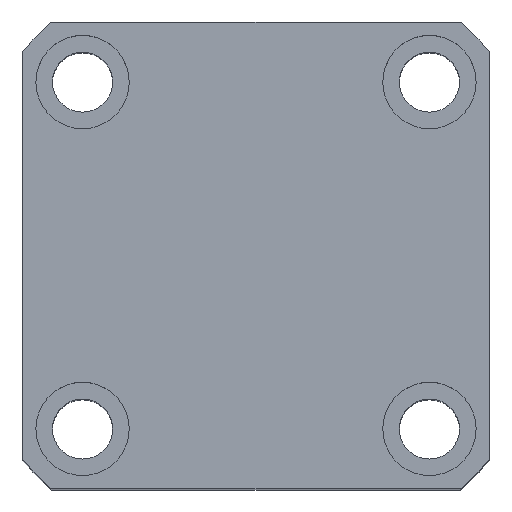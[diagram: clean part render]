
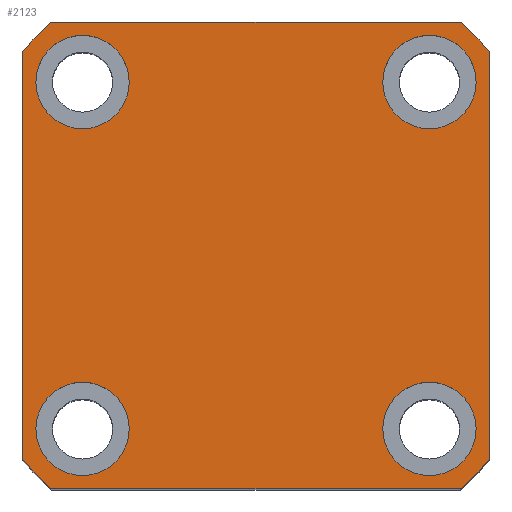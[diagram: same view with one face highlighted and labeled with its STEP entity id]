
A CAD part, top view. The second image highlights one B-rep face of the part: STEP entity #2123.
In plain terms, the highlighted planar face has unit normal (0, 0, 1).
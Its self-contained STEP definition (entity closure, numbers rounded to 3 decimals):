
#29 = ORIENTED_EDGE ( 'NONE', *, *, #9833, .T. ) ;
#46 = CARTESIAN_POINT ( 'NONE',  ( 35., 30.615, 90. ) ) ;
#142 = CARTESIAN_POINT ( 'NONE',  ( -33., 26., 90. ) ) ;
#172 = EDGE_CURVE ( 'NONE', #5427, #9841, #10039, .T. ) ;
#218 = FACE_BOUND ( 'NONE', #6720, .T. ) ;
#255 = VECTOR ( 'NONE', #5085, 1000. ) ;
#265 = CARTESIAN_POINT ( 'NONE',  ( 26., 26., 90. ) ) ;
#315 = CARTESIAN_POINT ( 'NONE',  ( 33., 26., 90. ) ) ;
#328 = AXIS2_PLACEMENT_3D ( 'NONE', #7920, #8391, #7955 ) ;
#436 = AXIS2_PLACEMENT_3D ( 'NONE', #1637, #7015, #2417 ) ;
#534 = EDGE_CURVE ( 'NONE', #9280, #8065, #6297, .T. ) ;
#685 = ORIENTED_EDGE ( 'NONE', *, *, #9141, .F. ) ;
#711 = VECTOR ( 'NONE', #2616, 1000. ) ;
#730 = VERTEX_POINT ( 'NONE', #9294 ) ;
#951 = DIRECTION ( 'NONE',  ( 0., 1., 0. ) ) ;
#1068 = DIRECTION ( 'NONE',  ( 1., 0., 0. ) ) ;
#1344 = CIRCLE ( 'NONE', #9437, 7. ) ;
#1515 = EDGE_CURVE ( 'NONE', #3730, #6779, #9062, .T. ) ;
#1564 = CARTESIAN_POINT ( 'NONE',  ( 26., 26., 90. ) ) ;
#1611 = DIRECTION ( 'NONE',  ( 0., 0., 1. ) ) ;
#1612 = CARTESIAN_POINT ( 'NONE',  ( -26., -26., 90. ) ) ;
#1637 = CARTESIAN_POINT ( 'NONE',  ( -26., 26., 90. ) ) ;
#1757 = CARTESIAN_POINT ( 'NONE',  ( 35., -30.615, 90. ) ) ;
#2051 = CARTESIAN_POINT ( 'NONE',  ( 0., 0., 90. ) ) ;
#2052 = CIRCLE ( 'NONE', #6829, 7. ) ;
#2115 = DIRECTION ( 'NONE',  ( 1., 0., 0. ) ) ;
#2123 = ADVANCED_FACE ( 'NONE', ( #7966, #218, #4124, #10015, #5931 ), #4612, .T. ) ;
#2153 = CARTESIAN_POINT ( 'NONE',  ( -19., -26., 90. ) ) ;
#2310 = EDGE_CURVE ( 'NONE', #8937, #7603, #1344, .T. ) ;
#2321 = CARTESIAN_POINT ( 'NONE',  ( -26., -26., 90. ) ) ;
#2349 = DIRECTION ( 'NONE',  ( 1., 0., 0. ) ) ;
#2384 = DIRECTION ( 'NONE',  ( 1., 0., 0. ) ) ;
#2386 = EDGE_CURVE ( 'NONE', #8065, #9280, #5447, .T. ) ;
#2399 = ORIENTED_EDGE ( 'NONE', *, *, #7253, .F. ) ;
#2410 = ORIENTED_EDGE ( 'NONE', *, *, #534, .F. ) ;
#2417 = DIRECTION ( 'NONE',  ( 1., 0., 0. ) ) ;
#2582 = CARTESIAN_POINT ( 'NONE',  ( 19., -26., 90. ) ) ;
#2616 = DIRECTION ( 'NONE',  ( -1., 0., 0. ) ) ;
#2651 = ORIENTED_EDGE ( 'NONE', *, *, #9370, .T. ) ;
#2661 = ORIENTED_EDGE ( 'NONE', *, *, #4645, .T. ) ;
#2721 = VERTEX_POINT ( 'NONE', #5487 ) ;
#2755 = DIRECTION ( 'NONE',  ( 0., 0., 1. ) ) ;
#2837 = DIRECTION ( 'NONE',  ( 1., 0., 0. ) ) ;
#2887 = CARTESIAN_POINT ( 'NONE',  ( 0., 0., 90. ) ) ;
#2900 = CARTESIAN_POINT ( 'NONE',  ( -26., 26., 90. ) ) ;
#3099 = DIRECTION ( 'NONE',  ( 1., 0., 0. ) ) ;
#3447 = CARTESIAN_POINT ( 'NONE',  ( 33., -26., 90. ) ) ;
#3567 = AXIS2_PLACEMENT_3D ( 'NONE', #7340, #2755, #8127 ) ;
#3640 = DIRECTION ( 'NONE',  ( 0., 0., 1. ) ) ;
#3662 = DIRECTION ( 'NONE',  ( 1., 0., 0. ) ) ;
#3681 = CIRCLE ( 'NONE', #9143, 7. ) ;
#3730 = VERTEX_POINT ( 'NONE', #2582 ) ;
#3785 = EDGE_CURVE ( 'NONE', #2721, #5427, #8692, .T. ) ;
#3794 = CIRCLE ( 'NONE', #5354, 7. ) ;
#3876 = CARTESIAN_POINT ( 'NONE',  ( 0., 0., 90. ) ) ;
#3883 = AXIS2_PLACEMENT_3D ( 'NONE', #2051, #7423, #2837 ) ;
#3979 = CARTESIAN_POINT ( 'NONE',  ( 26., -26., 90. ) ) ;
#4124 = FACE_BOUND ( 'NONE', #7200, .T. ) ;
#4215 = ORIENTED_EDGE ( 'NONE', *, *, #2386, .F. ) ;
#4348 = CARTESIAN_POINT ( 'NONE',  ( -35., -35., 90. ) ) ;
#4407 = LINE ( 'NONE', #4348, #8487 ) ;
#4563 = CARTESIAN_POINT ( 'NONE',  ( 30.615, -35., 90. ) ) ;
#4612 = PLANE ( 'NONE',  #6848 ) ;
#4645 = EDGE_CURVE ( 'NONE', #9661, #8677, #8744, .T. ) ;
#4648 = DIRECTION ( 'NONE',  ( 1., 0., 0. ) ) ;
#4657 = VECTOR ( 'NONE', #951, 1000. ) ;
#4761 = DIRECTION ( 'NONE',  ( 1., 0., 0. ) ) ;
#4813 = VERTEX_POINT ( 'NONE', #7490 ) ;
#4908 = CARTESIAN_POINT ( 'NONE',  ( -35., 35., 90. ) ) ;
#4996 = AXIS2_PLACEMENT_3D ( 'NONE', #3979, #9353, #4761 ) ;
#5034 = ORIENTED_EDGE ( 'NONE', *, *, #7001, .T. ) ;
#5059 = ORIENTED_EDGE ( 'NONE', *, *, #1515, .F. ) ;
#5085 = DIRECTION ( 'NONE',  ( 0., -1., 0. ) ) ;
#5149 = CARTESIAN_POINT ( 'NONE',  ( -35., 35., 90. ) ) ;
#5175 = VERTEX_POINT ( 'NONE', #9360 ) ;
#5354 = AXIS2_PLACEMENT_3D ( 'NONE', #1612, #6988, #2384 ) ;
#5427 = VERTEX_POINT ( 'NONE', #5709 ) ;
#5447 = CIRCLE ( 'NONE', #436, 7. ) ;
#5487 = CARTESIAN_POINT ( 'NONE',  ( 30.615, 35., 90. ) ) ;
#5593 = CARTESIAN_POINT ( 'NONE',  ( 35., 35., 90. ) ) ;
#5703 = DIRECTION ( 'NONE',  ( 0., 0., 1. ) ) ;
#5709 = CARTESIAN_POINT ( 'NONE',  ( -30.615, 35., 90. ) ) ;
#5916 = EDGE_CURVE ( 'NONE', #5175, #8503, #4407, .T. ) ;
#5931 = FACE_OUTER_BOUND ( 'NONE', #6175, .T. ) ;
#5962 = LINE ( 'NONE', #5149, #255 ) ;
#6004 = VERTEX_POINT ( 'NONE', #2153 ) ;
#6016 = ORIENTED_EDGE ( 'NONE', *, *, #2310, .F. ) ;
#6175 = EDGE_LOOP ( 'NONE', ( #2661, #2651, #9017, #8634, #5034, #7301, #7780, #29 ) ) ;
#6210 = CARTESIAN_POINT ( 'NONE',  ( 26., -26., 90. ) ) ;
#6243 = CIRCLE ( 'NONE', #6637, 46.5 ) ;
#6297 = CIRCLE ( 'NONE', #6393, 7. ) ;
#6393 = AXIS2_PLACEMENT_3D ( 'NONE', #2900, #3640, #2115 ) ;
#6637 = AXIS2_PLACEMENT_3D ( 'NONE', #2887, #8258, #3662 ) ;
#6645 = CARTESIAN_POINT ( 'NONE',  ( -35., 30.615, 90. ) ) ;
#6720 = EDGE_LOOP ( 'NONE', ( #685, #5059 ) ) ;
#6779 = VERTEX_POINT ( 'NONE', #3447 ) ;
#6795 = ORIENTED_EDGE ( 'NONE', *, *, #7778, .F. ) ;
#6829 = AXIS2_PLACEMENT_3D ( 'NONE', #6210, #1611, #6987 ) ;
#6843 = CIRCLE ( 'NONE', #8001, 7. ) ;
#6848 = AXIS2_PLACEMENT_3D ( 'NONE', #3876, #9237, #4648 ) ;
#6945 = DIRECTION ( 'NONE',  ( 0., 0., 1. ) ) ;
#6987 = DIRECTION ( 'NONE',  ( 1., 0., 0. ) ) ;
#6988 = DIRECTION ( 'NONE',  ( 0., 0., 1. ) ) ;
#7001 = EDGE_CURVE ( 'NONE', #9841, #4813, #5962, .T. ) ;
#7015 = DIRECTION ( 'NONE',  ( 0., 0., 1. ) ) ;
#7200 = EDGE_LOOP ( 'NONE', ( #9381, #6016 ) ) ;
#7253 = EDGE_CURVE ( 'NONE', #730, #6004, #3681, .T. ) ;
#7301 = ORIENTED_EDGE ( 'NONE', *, *, #9510, .T. ) ;
#7340 = CARTESIAN_POINT ( 'NONE',  ( 0., 0., 90. ) ) ;
#7423 = DIRECTION ( 'NONE',  ( 0., 0., 1. ) ) ;
#7490 = CARTESIAN_POINT ( 'NONE',  ( -35., -30.615, 90. ) ) ;
#7603 = VERTEX_POINT ( 'NONE', #315 ) ;
#7679 = DIRECTION ( 'NONE',  ( 0., 0., 1. ) ) ;
#7778 = EDGE_CURVE ( 'NONE', #6004, #730, #3794, .T. ) ;
#7780 = ORIENTED_EDGE ( 'NONE', *, *, #5916, .T. ) ;
#7920 = CARTESIAN_POINT ( 'NONE',  ( 0., 0., 90. ) ) ;
#7955 = DIRECTION ( 'NONE',  ( 1., 0., 0. ) ) ;
#7966 = FACE_BOUND ( 'NONE', #9485, .T. ) ;
#8001 = AXIS2_PLACEMENT_3D ( 'NONE', #265, #5703, #1068 ) ;
#8065 = VERTEX_POINT ( 'NONE', #8738 ) ;
#8127 = DIRECTION ( 'NONE',  ( 1., 0., 0. ) ) ;
#8258 = DIRECTION ( 'NONE',  ( 0., 0., 1. ) ) ;
#8391 = DIRECTION ( 'NONE',  ( 0., 0., 1. ) ) ;
#8487 = VECTOR ( 'NONE', #9728, 1000. ) ;
#8503 = VERTEX_POINT ( 'NONE', #4563 ) ;
#8533 = CIRCLE ( 'NONE', #3567, 46.5 ) ;
#8634 = ORIENTED_EDGE ( 'NONE', *, *, #172, .T. ) ;
#8677 = VERTEX_POINT ( 'NONE', #46 ) ;
#8692 = LINE ( 'NONE', #4908, #711 ) ;
#8738 = CARTESIAN_POINT ( 'NONE',  ( -19., 26., 90. ) ) ;
#8744 = LINE ( 'NONE', #5593, #4657 ) ;
#8937 = VERTEX_POINT ( 'NONE', #9597 ) ;
#9017 = ORIENTED_EDGE ( 'NONE', *, *, #3785, .T. ) ;
#9062 = CIRCLE ( 'NONE', #4996, 7. ) ;
#9117 = EDGE_LOOP ( 'NONE', ( #4215, #2410 ) ) ;
#9141 = EDGE_CURVE ( 'NONE', #6779, #3730, #2052, .T. ) ;
#9143 = AXIS2_PLACEMENT_3D ( 'NONE', #2321, #7679, #3099 ) ;
#9237 = DIRECTION ( 'NONE',  ( 0., 0., 1. ) ) ;
#9280 = VERTEX_POINT ( 'NONE', #142 ) ;
#9294 = CARTESIAN_POINT ( 'NONE',  ( -33., -26., 90. ) ) ;
#9353 = DIRECTION ( 'NONE',  ( 0., 0., 1. ) ) ;
#9360 = CARTESIAN_POINT ( 'NONE',  ( -30.615, -35., 90. ) ) ;
#9370 = EDGE_CURVE ( 'NONE', #8677, #2721, #8533, .T. ) ;
#9375 = CIRCLE ( 'NONE', #3883, 46.5 ) ;
#9381 = ORIENTED_EDGE ( 'NONE', *, *, #9987, .F. ) ;
#9437 = AXIS2_PLACEMENT_3D ( 'NONE', #1564, #6945, #2349 ) ;
#9485 = EDGE_LOOP ( 'NONE', ( #6795, #2399 ) ) ;
#9510 = EDGE_CURVE ( 'NONE', #4813, #5175, #6243, .T. ) ;
#9597 = CARTESIAN_POINT ( 'NONE',  ( 19., 26., 90. ) ) ;
#9661 = VERTEX_POINT ( 'NONE', #1757 ) ;
#9728 = DIRECTION ( 'NONE',  ( 1., 0., 0. ) ) ;
#9833 = EDGE_CURVE ( 'NONE', #8503, #9661, #9375, .T. ) ;
#9841 = VERTEX_POINT ( 'NONE', #6645 ) ;
#9987 = EDGE_CURVE ( 'NONE', #7603, #8937, #6843, .T. ) ;
#10015 = FACE_BOUND ( 'NONE', #9117, .T. ) ;
#10039 = CIRCLE ( 'NONE', #328, 46.5 ) ;
